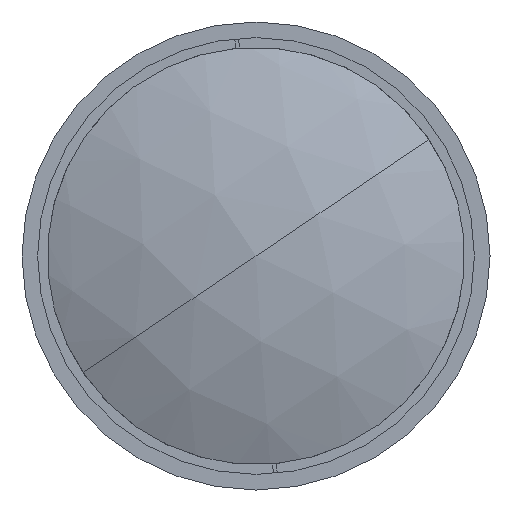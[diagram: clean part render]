
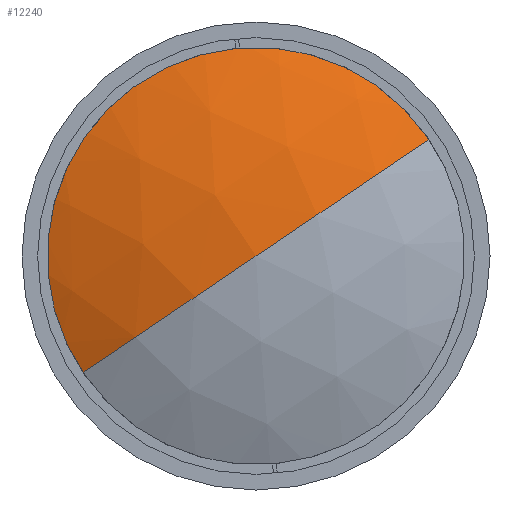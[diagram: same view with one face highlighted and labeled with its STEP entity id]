
A CAD part, left-side view. The second image highlights one B-rep face of the part: STEP entity #12240.
In plain terms, the highlighted spherical face has radius 133.05 mm.
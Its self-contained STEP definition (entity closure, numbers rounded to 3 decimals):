
#1044 = CIRCLE ( 'NONE', #8231, 133.05 ) ;
#1112 = CARTESIAN_POINT ( 'NONE',  ( 1.5, 0., 0. ) ) ;
#1531 = CARTESIAN_POINT ( 'NONE',  ( 134.55, 0., 0. ) ) ;
#1704 = DIRECTION ( 'NONE',  ( -1., 0., 0. ) ) ;
#1744 = ORIENTED_EDGE ( 'NONE', *, *, #12310, .T. ) ;
#2305 = SPHERICAL_SURFACE ( 'NONE', #9622, 133.05 ) ;
#2421 = DIRECTION ( 'NONE',  ( 0., 0.558, 0.83 ) ) ;
#2721 = DIRECTION ( 'NONE',  ( 0., 0.83, -0.558 ) ) ;
#3186 = EDGE_LOOP ( 'NONE', ( #11210, #1744, #6532 ) ) ;
#3589 = DIRECTION ( 'NONE',  ( 0., -0.83, 0.558 ) ) ;
#4736 = EDGE_CURVE ( 'NONE', #5252, #13020, #8164, .T. ) ;
#5046 = VERTEX_POINT ( 'NONE', #1112 ) ;
#5229 = AXIS2_PLACEMENT_3D ( 'NONE', #6348, #14456, #7516 ) ;
#5252 = VERTEX_POINT ( 'NONE', #12468 ) ;
#5360 = EDGE_CURVE ( 'NONE', #5252, #5046, #1044, .T. ) ;
#6348 = CARTESIAN_POINT ( 'NONE',  ( 134.55, 0., 0. ) ) ;
#6532 = ORIENTED_EDGE ( 'NONE', *, *, #5360, .F. ) ;
#7516 = DIRECTION ( 'NONE',  ( 0., -0.83, 0.558 ) ) ;
#7693 = CARTESIAN_POINT ( 'NONE',  ( 13.4, 45.636, -30.697 ) ) ;
#8164 = CIRCLE ( 'NONE', #15066, 55. ) ;
#8231 = AXIS2_PLACEMENT_3D ( 'NONE', #1531, #9664, #2721 ) ;
#8681 = CARTESIAN_POINT ( 'NONE',  ( 13.4, 0., 0. ) ) ;
#9622 = AXIS2_PLACEMENT_3D ( 'NONE', #13863, #2421, #3589 ) ;
#9664 = DIRECTION ( 'NONE',  ( 0., -0.558, -0.83 ) ) ;
#9829 = DIRECTION ( 'NONE',  ( 0., 0.558, 0.83 ) ) ;
#10475 = CIRCLE ( 'NONE', #5229, 133.05 ) ;
#10854 = FACE_OUTER_BOUND ( 'NONE', #3186, .T. ) ;
#11210 = ORIENTED_EDGE ( 'NONE', *, *, #4736, .T. ) ;
#12240 = ADVANCED_FACE ( 'NONE', ( #10854 ), #2305, .T. ) ;
#12310 = EDGE_CURVE ( 'NONE', #13020, #5046, #10475, .T. ) ;
#12468 = CARTESIAN_POINT ( 'NONE',  ( 13.4, -45.636, 30.697 ) ) ;
#13020 = VERTEX_POINT ( 'NONE', #7693 ) ;
#13863 = CARTESIAN_POINT ( 'NONE',  ( 134.55, 0., 0. ) ) ;
#14456 = DIRECTION ( 'NONE',  ( 0., 0.558, 0.83 ) ) ;
#15066 = AXIS2_PLACEMENT_3D ( 'NONE', #8681, #1704, #9829 ) ;
